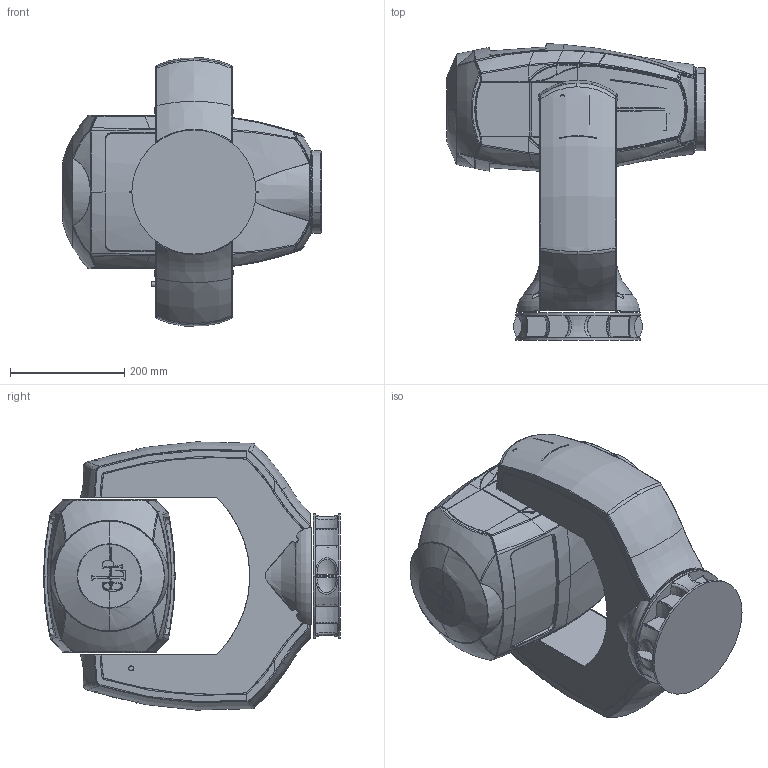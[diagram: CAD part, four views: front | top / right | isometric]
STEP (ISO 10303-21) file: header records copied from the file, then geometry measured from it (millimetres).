
FILE_DESCRIPTION((''),'2;1');
FILE_NAME('GT1_HEAD_HORIZONTAL1','2016-09-16T',('fw'),(''),'CREO PARAMETRIC BY PTC INC, 2015380','CREO PARAMETRIC BY PTC INC, 2015380','');
FILE_SCHEMA(('AUTOMOTIVE_DESIGN { 1 0 10303 214 1 1 1 1 }'));
Products named in the file (1): GT1_HEAD_HORIZONTAL1
Bounding box: 452.02 x 518.68 x 468.89 mm (x, y, z)
Surface area: 1072408.2 mm2 (no closed solid volume)
Topology: 0 solids, 111 shells, 788 faces, 3171 edges, 2449 vertices
Faces by surface type: bspline 375, cylinder 115, torus 105, plane 78, cone 49, extrusion 33, sphere 33
Entity records: 67079 total; most frequent: CARTESIAN_POINT 46716, ORIENTED_EDGE 4349, EDGE_CURVE 3144, DIRECTION 2491, VERTEX_POINT 2447, B_SPLINE_CURVE_WITH_KNOTS 2059, AXIS2_PLACEMENT_3D 962, EDGE_LOOP 787
